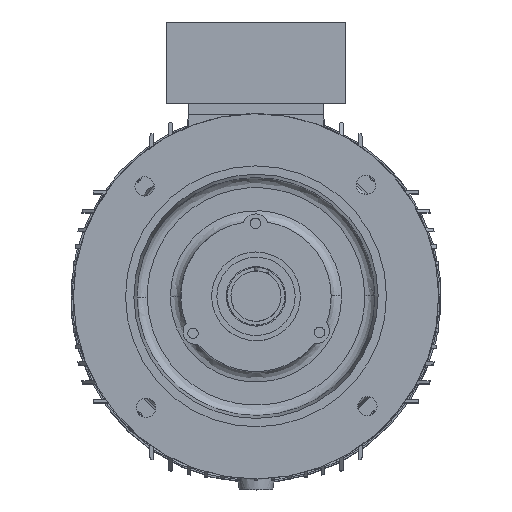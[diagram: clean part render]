
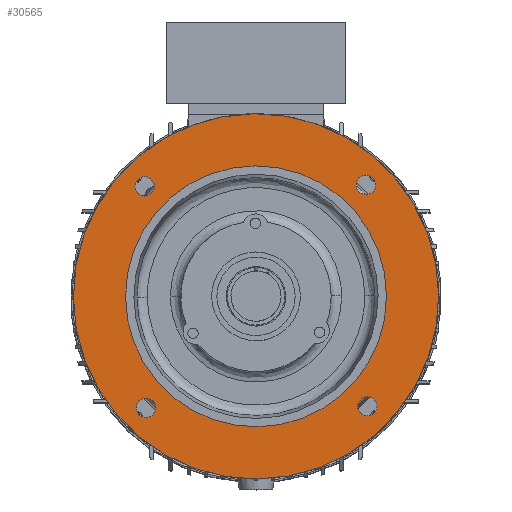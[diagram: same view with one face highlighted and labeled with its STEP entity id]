
A CAD part, top view. The second image highlights one B-rep face of the part: STEP entity #30565.
In plain terms, the highlighted planar face has unit normal (0, 0, 1) as drawn and (-1, 0, 0) by its records, which use the part's own axes.
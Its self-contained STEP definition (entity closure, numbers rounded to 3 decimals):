
#3081 = AXIS2_PLACEMENT_3D ( 'NONE', #21777, #21779, #21781 ) ;
#3088 = AXIS2_PLACEMENT_3D ( 'NONE', #22049, #22050, #22051 ) ;
#3089 = AXIS2_PLACEMENT_3D ( 'NONE', #22052, #22053, #22054 ) ;
#3090 = AXIS2_PLACEMENT_3D ( 'NONE', #22057, #22058, #22059 ) ;
#3093 = AXIS2_PLACEMENT_3D ( 'NONE', #23226, #23227, #23228 ) ;
#3095 = AXIS2_PLACEMENT_3D ( 'NONE', #23232, #23233, #23234 ) ;
#9890 = AXIS2_PLACEMENT_3D ( 'NONE', #24811, #24807, #24812 ) ;
#10269 = CARTESIAN_POINT ( 'NONE',  ( 5., 106.066, -106.066 ) ) ;
#10270 = DIRECTION ( 'NONE',  ( 1., 0., 0. ) ) ;
#10271 = DIRECTION ( 'NONE',  ( 0., 0., 1. ) ) ;
#10279 = CARTESIAN_POINT ( 'NONE',  ( 5., 106.066, 106.066 ) ) ;
#10280 = DIRECTION ( 'NONE',  ( 1., 0., 0. ) ) ;
#10281 = DIRECTION ( 'NONE',  ( 0., 0., 1. ) ) ;
#10289 = CARTESIAN_POINT ( 'NONE',  ( 5., -106.066, 106.066 ) ) ;
#10290 = DIRECTION ( 'NONE',  ( 1., 0., 0. ) ) ;
#10291 = DIRECTION ( 'NONE',  ( 0., 0., 1. ) ) ;
#10299 = CARTESIAN_POINT ( 'NONE',  ( 5., -106.066, -106.066 ) ) ;
#10300 = DIRECTION ( 'NONE',  ( 1., 0., 0. ) ) ;
#10301 = DIRECTION ( 'NONE',  ( 0., 0., 1. ) ) ;
#10316 = CARTESIAN_POINT ( 'NONE',  ( 5., 0., 0. ) ) ;
#10317 = DIRECTION ( 'NONE',  ( -1., 0., 0. ) ) ;
#10318 = DIRECTION ( 'NONE',  ( 0., 0., 1. ) ) ;
#10329 = CARTESIAN_POINT ( 'NONE',  ( 5., 0., 0. ) ) ;
#10330 = DIRECTION ( 'NONE',  ( 1., 0., 0. ) ) ;
#10331 = DIRECTION ( 'NONE',  ( 0., 0., 1. ) ) ;
#12410 = EDGE_CURVE ( 'NONE', #15369, #14925, #22175, .T. ) ;
#12425 = EDGE_CURVE ( 'NONE', #15028, #15064, #22190, .T. ) ;
#12426 = EDGE_CURVE ( 'NONE', #15044, #15051, #22194, .T. ) ;
#12427 = EDGE_CURVE ( 'NONE', #15022, #15024, #22192, .T. ) ;
#12436 = EDGE_CURVE ( 'NONE', #15112, #15114, #22206, .T. ) ;
#12439 = EDGE_CURVE ( 'NONE', #15006, #15018, #22208, .T. ) ;
#13085 = EDGE_LOOP ( 'NONE', ( #13705, #13706 ) ) ;
#13093 = EDGE_LOOP ( 'NONE', ( #13713, #13715 ) ) ;
#13098 = EDGE_LOOP ( 'NONE', ( #13707, #13708 ) ) ;
#13101 = EDGE_LOOP ( 'NONE', ( #13709, #13711 ) ) ;
#13102 = EDGE_LOOP ( 'NONE', ( #13717, #13719 ) ) ;
#13103 = EDGE_LOOP ( 'NONE', ( #13721, #13723 ) ) ;
#13705 = ORIENTED_EDGE ( 'NONE', *, *, #12436, .T. ) ;
#13706 = ORIENTED_EDGE ( 'NONE', *, *, #31412, .T. ) ;
#13707 = ORIENTED_EDGE ( 'NONE', *, *, #31406, .T. ) ;
#13708 = ORIENTED_EDGE ( 'NONE', *, *, #12439, .T. ) ;
#13709 = ORIENTED_EDGE ( 'NONE', *, *, #31400, .T. ) ;
#13711 = ORIENTED_EDGE ( 'NONE', *, *, #12410, .T. ) ;
#13713 = ORIENTED_EDGE ( 'NONE', *, *, #31396, .T. ) ;
#13715 = ORIENTED_EDGE ( 'NONE', *, *, #12425, .T. ) ;
#13717 = ORIENTED_EDGE ( 'NONE', *, *, #31392, .T. ) ;
#13719 = ORIENTED_EDGE ( 'NONE', *, *, #12427, .T. ) ;
#13721 = ORIENTED_EDGE ( 'NONE', *, *, #31388, .T. ) ;
#13723 = ORIENTED_EDGE ( 'NONE', *, *, #12426, .T. ) ;
#14925 = VERTEX_POINT ( 'NONE', #23884 ) ;
#15006 = VERTEX_POINT ( 'NONE', #23927 ) ;
#15018 = VERTEX_POINT ( 'NONE', #23932 ) ;
#15022 = VERTEX_POINT ( 'NONE', #23934 ) ;
#15024 = VERTEX_POINT ( 'NONE', #23935 ) ;
#15028 = VERTEX_POINT ( 'NONE', #23937 ) ;
#15044 = VERTEX_POINT ( 'NONE', #23944 ) ;
#15051 = VERTEX_POINT ( 'NONE', #23948 ) ;
#15064 = VERTEX_POINT ( 'NONE', #23954 ) ;
#15112 = VERTEX_POINT ( 'NONE', #23976 ) ;
#15114 = VERTEX_POINT ( 'NONE', #23977 ) ;
#15369 = VERTEX_POINT ( 'NONE', #24122 ) ;
#21777 = CARTESIAN_POINT ( 'NONE',  ( 5., -106.066, -106.066 ) ) ;
#21779 = DIRECTION ( 'NONE',  ( 1., 0., 0. ) ) ;
#21781 = DIRECTION ( 'NONE',  ( 0., 0., 1. ) ) ;
#22049 = CARTESIAN_POINT ( 'NONE',  ( 5., -106.066, 106.066 ) ) ;
#22050 = DIRECTION ( 'NONE',  ( 1., 0., 0. ) ) ;
#22051 = DIRECTION ( 'NONE',  ( 0., 0., 1. ) ) ;
#22052 = CARTESIAN_POINT ( 'NONE',  ( 5., 106.066, -106.066 ) ) ;
#22053 = DIRECTION ( 'NONE',  ( 1., 0., 0. ) ) ;
#22054 = DIRECTION ( 'NONE',  ( 0., 0., 1. ) ) ;
#22057 = CARTESIAN_POINT ( 'NONE',  ( 5., 106.066, 106.066 ) ) ;
#22058 = DIRECTION ( 'NONE',  ( 1., 0., 0. ) ) ;
#22059 = DIRECTION ( 'NONE',  ( 0., 0., 1. ) ) ;
#22175 = CIRCLE ( 'NONE', #3081, 9.25 ) ;
#22190 = CIRCLE ( 'NONE', #3088, 9.25 ) ;
#22192 = CIRCLE ( 'NONE', #3090, 9.25 ) ;
#22194 = CIRCLE ( 'NONE', #3089, 9.25 ) ;
#22206 = CIRCLE ( 'NONE', #3093, 125. ) ;
#22208 = CIRCLE ( 'NONE', #3095, 175. ) ;
#23059 = FACE_BOUND ( 'NONE', #13101, .T. ) ;
#23063 = FACE_BOUND ( 'NONE', #13093, .T. ) ;
#23072 = FACE_BOUND ( 'NONE', #13085, .T. ) ;
#23074 = FACE_BOUND ( 'NONE', #13102, .T. ) ;
#23076 = FACE_OUTER_BOUND ( 'NONE', #13098, .T. ) ;
#23077 = FACE_BOUND ( 'NONE', #13103, .T. ) ;
#23226 = CARTESIAN_POINT ( 'NONE',  ( 5., 0., 0. ) ) ;
#23227 = DIRECTION ( 'NONE',  ( 1., 0., 0. ) ) ;
#23228 = DIRECTION ( 'NONE',  ( 0., 0., 1. ) ) ;
#23232 = CARTESIAN_POINT ( 'NONE',  ( 5., 0., 0. ) ) ;
#23233 = DIRECTION ( 'NONE',  ( -1., 0., 0. ) ) ;
#23234 = DIRECTION ( 'NONE',  ( 0., 0., 1. ) ) ;
#23884 = CARTESIAN_POINT ( 'NONE',  ( 5., -106.066, -96.816 ) ) ;
#23927 = CARTESIAN_POINT ( 'NONE',  ( 5., 0., -175. ) ) ;
#23932 = CARTESIAN_POINT ( 'NONE',  ( 5., 0., 175. ) ) ;
#23934 = CARTESIAN_POINT ( 'NONE',  ( 5., 106.066, 96.816 ) ) ;
#23935 = CARTESIAN_POINT ( 'NONE',  ( 5., 106.066, 115.316 ) ) ;
#23937 = CARTESIAN_POINT ( 'NONE',  ( 5., -106.066, 96.816 ) ) ;
#23944 = CARTESIAN_POINT ( 'NONE',  ( 5., 106.066, -115.316 ) ) ;
#23948 = CARTESIAN_POINT ( 'NONE',  ( 5., 106.066, -96.816 ) ) ;
#23954 = CARTESIAN_POINT ( 'NONE',  ( 5., -106.066, 115.316 ) ) ;
#23976 = CARTESIAN_POINT ( 'NONE',  ( 5., 0., 125. ) ) ;
#23977 = CARTESIAN_POINT ( 'NONE',  ( 5., 0., -125. ) ) ;
#24122 = CARTESIAN_POINT ( 'NONE',  ( 5., -106.066, -115.316 ) ) ;
#24807 = DIRECTION ( 'NONE',  ( -1., 0., 0. ) ) ;
#24809 = PLANE ( 'NONE',  #9890 ) ;
#24811 = CARTESIAN_POINT ( 'NONE',  ( 5., 116.315, 0. ) ) ;
#24812 = DIRECTION ( 'NONE',  ( 0., 0., 1. ) ) ;
#28698 = CIRCLE ( 'NONE', #30164, 9.25 ) ;
#28702 = CIRCLE ( 'NONE', #30166, 9.25 ) ;
#28708 = CIRCLE ( 'NONE', #30168, 9.25 ) ;
#28714 = CIRCLE ( 'NONE', #30170, 9.25 ) ;
#28725 = CIRCLE ( 'NONE', #30174, 175. ) ;
#28734 = CIRCLE ( 'NONE', #30177, 125. ) ;
#30164 = AXIS2_PLACEMENT_3D ( 'NONE', #10269, #10270, #10271 ) ;
#30166 = AXIS2_PLACEMENT_3D ( 'NONE', #10279, #10280, #10281 ) ;
#30168 = AXIS2_PLACEMENT_3D ( 'NONE', #10289, #10290, #10291 ) ;
#30170 = AXIS2_PLACEMENT_3D ( 'NONE', #10299, #10300, #10301 ) ;
#30174 = AXIS2_PLACEMENT_3D ( 'NONE', #10316, #10317, #10318 ) ;
#30177 = AXIS2_PLACEMENT_3D ( 'NONE', #10329, #10330, #10331 ) ;
#30565 = ADVANCED_FACE ( 'NONE', ( #23072, #23076, #23059, #23063, #23074, #23077 ), #24809, .T. ) ;
#31388 = EDGE_CURVE ( 'NONE', #15051, #15044, #28698, .T. ) ;
#31392 = EDGE_CURVE ( 'NONE', #15024, #15022, #28702, .T. ) ;
#31396 = EDGE_CURVE ( 'NONE', #15064, #15028, #28708, .T. ) ;
#31400 = EDGE_CURVE ( 'NONE', #14925, #15369, #28714, .T. ) ;
#31406 = EDGE_CURVE ( 'NONE', #15018, #15006, #28725, .T. ) ;
#31412 = EDGE_CURVE ( 'NONE', #15114, #15112, #28734, .T. ) ;
